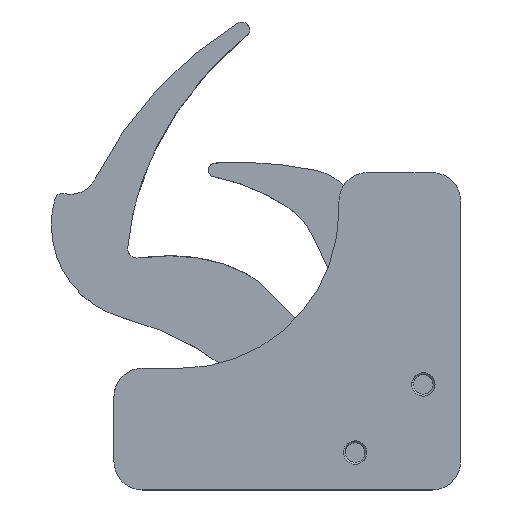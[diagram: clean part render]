
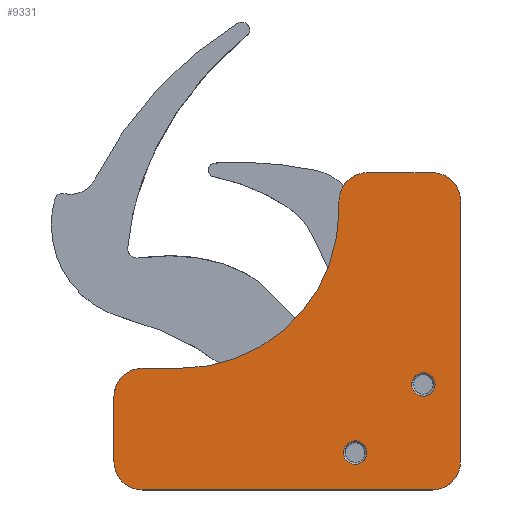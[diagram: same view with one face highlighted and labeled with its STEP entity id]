
A CAD part, top view. The second image highlights one B-rep face of the part: STEP entity #9331.
In plain terms, the highlighted planar face has unit normal (0, 0, 1).
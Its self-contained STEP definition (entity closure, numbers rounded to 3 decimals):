
#2008=CARTESIAN_POINT('',(-21.133,9.525,-3.429));
#2009=DIRECTION('',(0.,0.,1.));
#2010=DIRECTION('',(-1.,0.,0.));
#2011=AXIS2_PLACEMENT_3D('',#2008,#2009,#2010);
#2013=CARTESIAN_POINT('',(-21.133,9.525,-3.429));
#2014=DIRECTION('',(0.,0.,1.));
#2015=DIRECTION('',(1.,0.,0.));
#2016=AXIS2_PLACEMENT_3D('',#2013,#2014,#2015);
#2018=CARTESIAN_POINT('',(-9.525,21.133,-3.429));
#2019=DIRECTION('',(0.,0.,1.));
#2020=DIRECTION('',(-1.,0.,0.));
#2021=AXIS2_PLACEMENT_3D('',#2018,#2019,#2020);
#2023=CARTESIAN_POINT('',(-9.525,21.133,-3.429));
#2024=DIRECTION('',(0.,0.,1.));
#2025=DIRECTION('',(1.,0.,0.));
#2026=AXIS2_PLACEMENT_3D('',#2023,#2024,#2025);
#2028=CARTESIAN_POINT('',(-57.35,19.076,-3.429));
#2029=DIRECTION('',(0.,0.,1.));
#2030=DIRECTION('',(0.,1.,0.));
#2031=AXIS2_PLACEMENT_3D('',#2028,#2029,#2030);
#2033=CARTESIAN_POINT('',(-50.8,50.8,-3.429));
#2034=DIRECTION('',(0.,0.,-1.));
#2035=DIRECTION('',(1.,0.,0.));
#2036=AXIS2_PLACEMENT_3D('',#2033,#2034,#2035);
#2038=CARTESIAN_POINT('',(-19.05,52.324,-3.429));
#2039=DIRECTION('',(0.,0.,1.));
#2040=DIRECTION('',(0.,1.,0.));
#2041=AXIS2_PLACEMENT_3D('',#2038,#2039,#2040);
#2043=CARTESIAN_POINT('',(-8.001,52.324,-3.429));
#2044=DIRECTION('',(0.,0.,1.));
#2045=DIRECTION('',(1.,0.,0.));
#2046=AXIS2_PLACEMENT_3D('',#2043,#2044,#2045);
#2048=CARTESIAN_POINT('',(-8.001,8.001,-3.429));
#2049=DIRECTION('',(0.,0.,1.));
#2050=DIRECTION('',(0.,-1.,0.));
#2051=AXIS2_PLACEMENT_3D('',#2048,#2049,#2050);
#2053=DIRECTION('',(-1.,0.,0.));
#2054=VECTOR('',#2053,49.349);
#2055=CARTESIAN_POINT('',(-8.001,3.175,-3.429));
#2056=LINE('',#2055,#2054);
#2057=CARTESIAN_POINT('',(-57.35,7.975,-3.429));
#2058=DIRECTION('',(0.,0.,1.));
#2059=DIRECTION('',(-1.,0.,0.));
#2060=AXIS2_PLACEMENT_3D('',#2057,#2058,#2059);
#2062=DIRECTION('',(0.,1.,0.));
#2063=VECTOR('',#2062,11.101);
#2064=CARTESIAN_POINT('',(-62.15,7.975,-3.429));
#2065=LINE('',#2064,#2063);
#3740=DIRECTION('',(-1.,0.,0.));
#3741=VECTOR('',#3740,6.55);
#3742=CARTESIAN_POINT('',(-50.8,23.876,-3.429));
#3743=LINE('',#3742,#3741);
#3752=DIRECTION('',(0.,1.,0.));
#3753=VECTOR('',#3752,1.524);
#3754=CARTESIAN_POINT('',(-23.876,50.8,-3.429));
#3755=LINE('',#3754,#3753);
#3768=DIRECTION('',(1.,0.,0.));
#3769=VECTOR('',#3768,11.049);
#3770=CARTESIAN_POINT('',(-19.05,57.15,-3.429));
#3771=LINE('',#3770,#3769);
#3780=DIRECTION('',(0.,-1.,0.));
#3781=VECTOR('',#3780,44.323);
#3782=CARTESIAN_POINT('',(-3.175,52.324,-3.429));
#3783=LINE('',#3782,#3781);
#6441=CARTESIAN_POINT('',(-8.001,3.175,-3.429));
#6442=VERTEX_POINT('',#6441);
#6443=CARTESIAN_POINT('',(-3.175,8.001,-3.429));
#6444=VERTEX_POINT('',#6443);
#6445=CARTESIAN_POINT('',(-3.175,52.324,-3.429));
#6446=VERTEX_POINT('',#6445);
#6447=CARTESIAN_POINT('',(-8.001,57.15,-3.429));
#6448=VERTEX_POINT('',#6447);
#6449=CARTESIAN_POINT('',(-19.05,57.15,-3.429));
#6450=VERTEX_POINT('',#6449);
#6451=CARTESIAN_POINT('',(-23.876,52.324,-3.429));
#6452=VERTEX_POINT('',#6451);
#6453=CARTESIAN_POINT('',(-23.876,50.8,-3.429));
#6454=VERTEX_POINT('',#6453);
#6455=CARTESIAN_POINT('',(-50.8,23.876,-3.429));
#6456=VERTEX_POINT('',#6455);
#6596=CARTESIAN_POINT('',(-23.133,9.525,-3.429));
#6597=CARTESIAN_POINT('',(-19.133,9.525,-3.429));
#6598=VERTEX_POINT('',#6596);
#6599=VERTEX_POINT('',#6597);
#6600=CARTESIAN_POINT('',(-11.525,21.133,-3.429));
#6601=CARTESIAN_POINT('',(-7.525,21.133,-3.429));
#6602=VERTEX_POINT('',#6600);
#6603=VERTEX_POINT('',#6601);
#6704=CARTESIAN_POINT('',(-57.35,23.876,-3.429));
#6705=CARTESIAN_POINT('',(-62.15,19.076,-3.429));
#6706=VERTEX_POINT('',#6704);
#6707=VERTEX_POINT('',#6705);
#6714=CARTESIAN_POINT('',(-62.15,7.975,-3.429));
#6715=VERTEX_POINT('',#6714);
#6716=CARTESIAN_POINT('',(-57.35,3.175,-3.429));
#6717=VERTEX_POINT('',#6716);
#9290=CARTESIAN_POINT('',(-30.163,30.163,-3.429));
#9291=DIRECTION('',(0.,0.,1.));
#9292=DIRECTION('',(1.,0.,0.));
#9293=AXIS2_PLACEMENT_3D('',#9290,#9291,#9292);
#9294=PLANE('',#9293);
#9295=ORIENTED_EDGE('',*,*,#9265,.F.);
#9297=ORIENTED_EDGE('',*,*,#9296,.F.);
#9299=ORIENTED_EDGE('',*,*,#9298,.F.);
#9301=ORIENTED_EDGE('',*,*,#9300,.T.);
#9303=ORIENTED_EDGE('',*,*,#9302,.F.);
#9305=ORIENTED_EDGE('',*,*,#9304,.T.);
#9307=ORIENTED_EDGE('',*,*,#9306,.F.);
#9309=ORIENTED_EDGE('',*,*,#9308,.T.);
#9311=ORIENTED_EDGE('',*,*,#9310,.F.);
#9313=ORIENTED_EDGE('',*,*,#9312,.T.);
#9315=ORIENTED_EDGE('',*,*,#9314,.F.);
#9316=ORIENTED_EDGE('',*,*,#9282,.T.);
#9317=EDGE_LOOP('',(#9295,#9297,#9299,#9301,#9303,#9305,#9307,#9309,#9311,#9313,
#9315,#9316));
#9318=FACE_OUTER_BOUND('',#9317,.F.);
#9320=ORIENTED_EDGE('',*,*,#9319,.T.);
#9322=ORIENTED_EDGE('',*,*,#9321,.T.);
#9323=EDGE_LOOP('',(#9320,#9322));
#9324=FACE_BOUND('',#9323,.F.);
#9326=ORIENTED_EDGE('',*,*,#9325,.T.);
#9328=ORIENTED_EDGE('',*,*,#9327,.T.);
#9329=EDGE_LOOP('',(#9326,#9328));
#9330=FACE_BOUND('',#9329,.F.);
#9331=ADVANCED_FACE('',(#9318,#9324,#9330),#9294,.T.);
#2012=CIRCLE('',#2011,2.);
#2017=CIRCLE('',#2016,2.);
#2022=CIRCLE('',#2021,2.);
#2027=CIRCLE('',#2026,2.);
#2032=CIRCLE('',#2031,4.8);
#2037=CIRCLE('',#2036,26.924);
#2042=CIRCLE('',#2041,4.826);
#2047=CIRCLE('',#2046,4.826);
#2052=CIRCLE('',#2051,4.826);
#2061=CIRCLE('',#2060,4.8);
#9265=EDGE_CURVE('',#6706,#6707,#2032,.T.);
#9282=EDGE_CURVE('',#6715,#6707,#2065,.T.);
#9296=EDGE_CURVE('',#6456,#6706,#3743,.T.);
#9298=EDGE_CURVE('',#6454,#6456,#2037,.T.);
#9300=EDGE_CURVE('',#6454,#6452,#3755,.T.);
#9302=EDGE_CURVE('',#6450,#6452,#2042,.T.);
#9304=EDGE_CURVE('',#6450,#6448,#3771,.T.);
#9306=EDGE_CURVE('',#6446,#6448,#2047,.T.);
#9308=EDGE_CURVE('',#6446,#6444,#3783,.T.);
#9310=EDGE_CURVE('',#6442,#6444,#2052,.T.);
#9312=EDGE_CURVE('',#6442,#6717,#2056,.T.);
#9314=EDGE_CURVE('',#6715,#6717,#2061,.T.);
#9319=EDGE_CURVE('',#6602,#6603,#2022,.T.);
#9321=EDGE_CURVE('',#6603,#6602,#2027,.T.);
#9325=EDGE_CURVE('',#6598,#6599,#2012,.T.);
#9327=EDGE_CURVE('',#6599,#6598,#2017,.T.);
